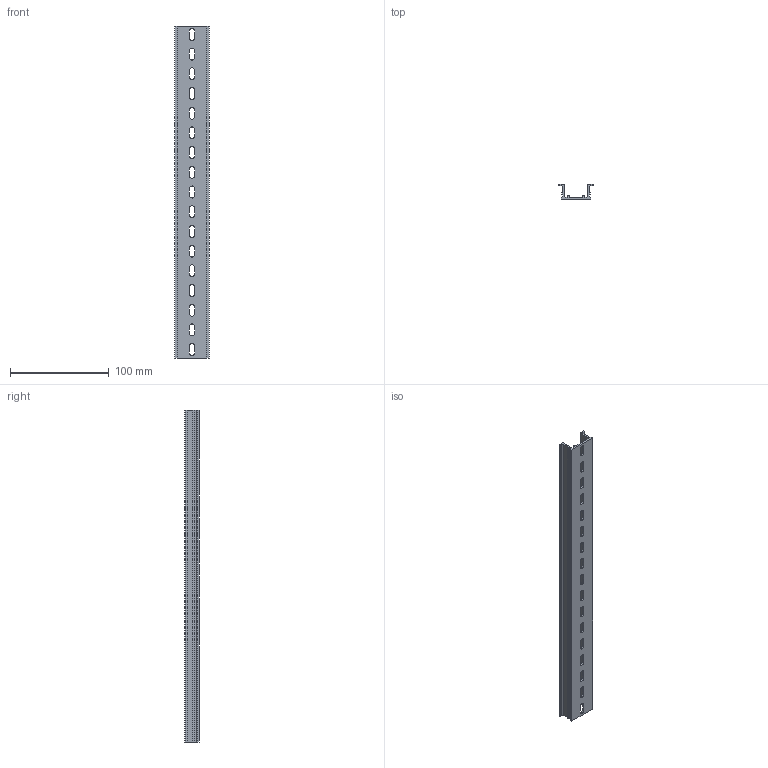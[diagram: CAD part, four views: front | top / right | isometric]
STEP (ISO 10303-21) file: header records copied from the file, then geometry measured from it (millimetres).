
FILE_DESCRIPTION(/* description */ (''),/* implementation_level */ '2;1');
FILE_NAME(/* name */ '22649-(TKB KD-17)HP 3D.stp',/* time_stamp */ '2024-12-05T13:45:10+09:00',/* author */ ('usercadg104'),/* organization */ (''),/* preprocessor_version */ 'ST-DEVELOPER v19.2',/* originating_system */ 'Autodesk Inventor 2023',/* authorisation */ '');
FILE_SCHEMA (('CONFIG_CONTROL_DESIGN'));
Length unit declared in the file: millimetre
Products named in the file (1): TKB KD-3(林)
Bounding box: 35 x 15 x 337 mm (x, y, z)
Volume: 39418.6 mm3; surface area: 45665.2 mm2
Topology: 1 solids, 1 shells, 108 faces, 318 edges, 212 vertices
Faces by surface type: plane 70, cylinder 38
Entity records: 3709 total; most frequent: CARTESIAN_POINT 639, ORIENTED_EDGE 636, DIRECTION 612, EDGE_CURVE 318, LINE 242, VECTOR 242, VERTEX_POINT 212, AXIS2_PLACEMENT_3D 185
